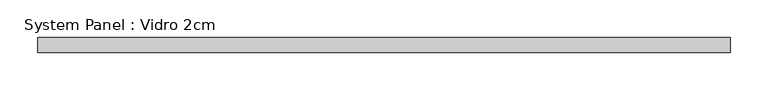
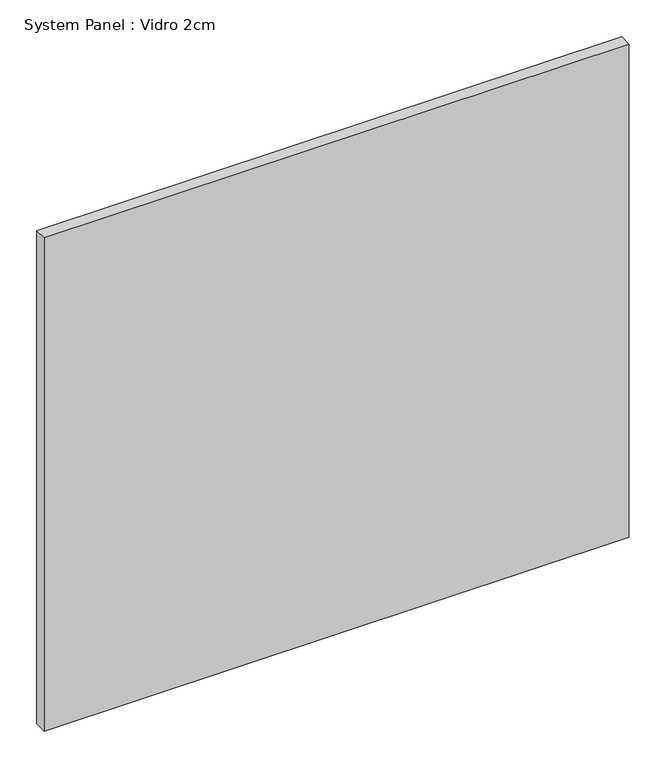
"""IFC4 building model written with IfcOpenShell, lengths in millimetres: plate geometry, System Panel : Vidro 2cm."""

from ifc_helpers import new_model, si_unit, origin, origin_with_axes, place, context, project, spatial, polyline, outline, extrude, source, transform, mapped, element, save


def system_panel_vidro_2cm_45a89a14(model_context):
    return source(origin(), model_context, "Body", "SweptSolid", [
        extrude(outline(polyline([(460.0000002, -20.0), (-460.0000002, -20.0), (-460.0000002, 0.0), (460.0000002, 0.0), (460.0000002, -20.0)])), origin_with_axes(), (0.0, 0.0, 1.0), 820.0),
    ])


if __name__ == "__main__":
    model = new_model("IFC4")
    model_context = context("Model", 3, world=origin())
    ifc_project = project(units=[si_unit("LENGTHUNIT", "METRE", prefix="MILLI")], contexts=[model_context])
    site = spatial("IfcSite", under=ifc_project)
    building = spatial("IfcBuilding", under=site)
    placement = place(None, origin())
    system_panel_vidro_2cm_shape = system_panel_vidro_2cm_45a89a14(model_context)
    element("IfcPlate", 1, ObjectType="System Panel : Vidro 2cm", at=placement, inside=building, context=model_context, shape_type="MappedRepresentation", body=[
        mapped(system_panel_vidro_2cm_shape, transform((0.0, 0.0, 0.0), x_axis=(1.0, 0.0, 0.0), y_axis=(0.0, 1.0, 0.0), z_axis=(0.0, 0.0, 1.0))),
    ])
    save(model, "model.ifc")
